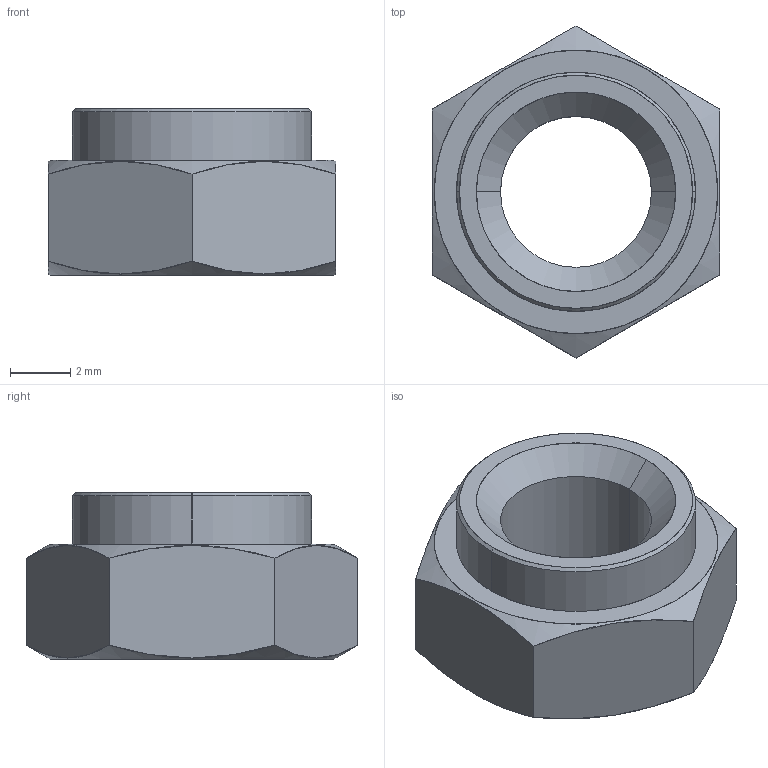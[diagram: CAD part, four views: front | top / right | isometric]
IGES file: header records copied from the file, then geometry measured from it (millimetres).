
Start section: SolidWorks IGES file using analytic representation for surfaces
Global section: file name: C:\Users\liam_\OneDrive\Desktop\Work\Mat Davis Pending 20181125\automotion\P SERIES\P0827.ZP_v2\P0827.ZP_v2_20181231_IGES\P0827.050-18G-ZP.igs; native system: SolidWorks 2017; preprocessor: SolidWorks 2017; author: liam_; date: 181231.110551; units: millimetre
Bounding box: 9.52 x 10.99 x 5.51 mm (x, y, z)
Surface area: 348.5 mm2 (no closed solid volume)
Topology: 0 solids, 0 shells, 23 faces, 376 edges, 376 vertices
Faces by surface type: revolution 14, bspline 9
